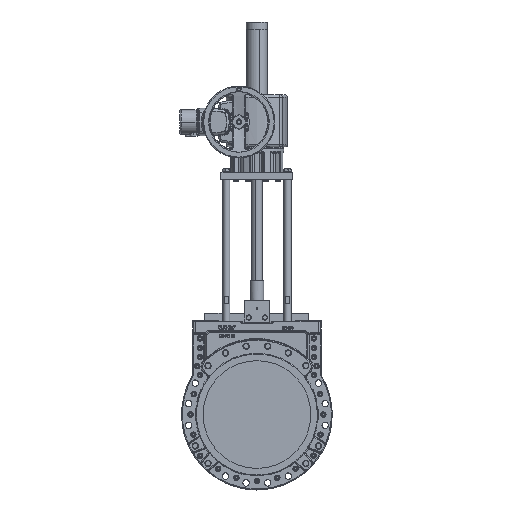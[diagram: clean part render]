
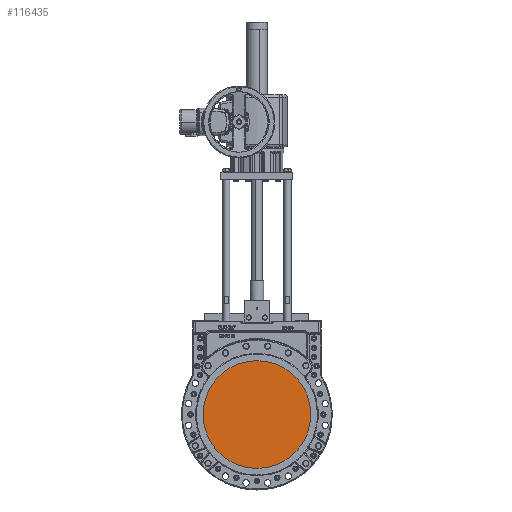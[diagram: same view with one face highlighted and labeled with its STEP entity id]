
A CAD part, top view. The second image highlights one B-rep face of the part: STEP entity #116435.
In plain terms, the highlighted planar face has unit normal (0, 0, 1).
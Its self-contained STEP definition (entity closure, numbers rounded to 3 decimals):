
#7526 = CARTESIAN_POINT ( 'NONE',  ( 0., 0., -0.25 ) ) ;
#17936 = ORIENTED_EDGE ( 'NONE', *, *, #135572, .T. ) ;
#24079 = DIRECTION ( 'NONE',  ( 1., 0., 0. ) ) ;
#28097 = AXIS2_PLACEMENT_3D ( 'NONE', #110606, #28931, #143615 ) ;
#28931 = DIRECTION ( 'NONE',  ( 0., 0., 1. ) ) ;
#32168 = DIRECTION ( 'NONE',  ( 0., 0., 1. ) ) ;
#41649 = AXIS2_PLACEMENT_3D ( 'NONE', #130354, #32168, #146813 ) ;
#51483 = CIRCLE ( 'NONE', #41649, 300. ) ;
#94167 = PLANE ( 'NONE',  #28097 ) ;
#97957 = EDGE_LOOP ( 'NONE', ( #17936, #183191 ) ) ;
#99728 = CARTESIAN_POINT ( 'NONE',  ( 300., 0., -0.25 ) ) ;
#110606 = CARTESIAN_POINT ( 'NONE',  ( 0., 0., -0.25 ) ) ;
#115305 = AXIS2_PLACEMENT_3D ( 'NONE', #7526, #122198, #24079 ) ;
#116435 = ADVANCED_FACE ( 'NONE', ( #152818 ), #94167, .T. ) ;
#122198 = DIRECTION ( 'NONE',  ( 0., 0., 1. ) ) ;
#130354 = CARTESIAN_POINT ( 'NONE',  ( 0., 0., -0.25 ) ) ;
#131182 = CIRCLE ( 'NONE', #115305, 300. ) ;
#132793 = CARTESIAN_POINT ( 'NONE',  ( -300., 0., -0.25 ) ) ;
#133122 = VERTEX_POINT ( 'NONE', #99728 ) ;
#135572 = EDGE_CURVE ( 'NONE', #133122, #142916, #131182, .T. ) ;
#142916 = VERTEX_POINT ( 'NONE', #132793 ) ;
#143615 = DIRECTION ( 'NONE',  ( 1., 0., 0. ) ) ;
#146813 = DIRECTION ( 'NONE',  ( 1., 0., 0. ) ) ;
#152818 = FACE_OUTER_BOUND ( 'NONE', #97957, .T. ) ;
#183191 = ORIENTED_EDGE ( 'NONE', *, *, #194025, .T. ) ;
#194025 = EDGE_CURVE ( 'NONE', #142916, #133122, #51483, .T. ) ;
